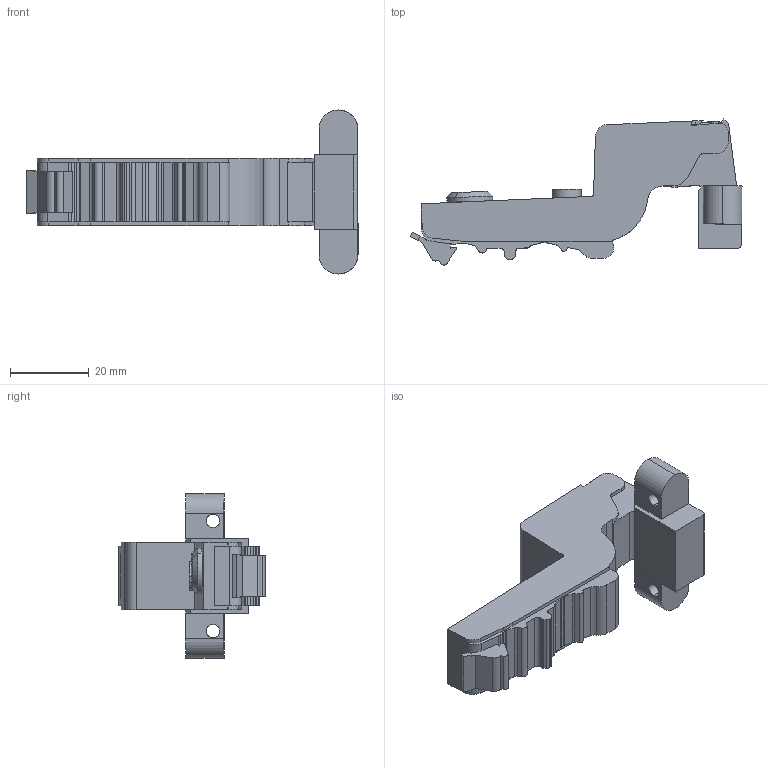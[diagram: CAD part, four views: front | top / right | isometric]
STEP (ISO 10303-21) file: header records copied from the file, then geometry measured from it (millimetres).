
FILE_DESCRIPTION (( 'STEP AP203' ), '1' );
FILE_NAME ('C82C678FA-DTC 3D close.STEP', '2025-07-21T05:13:24', ( '微软用户' ), ( '微软中国' ), 'SwSTEP 2.0', 'SolidWorks 2021', '' );
FILE_SCHEMA (( 'CONFIG_CONTROL_DESIGN' ));
Length unit declared in the file: millimetre
Products named in the file (1): C82C678FA-DTC 3D close
Bounding box: 84.21 x 37.05 x 41.6 mm (x, y, z)
Volume: 26965.9 mm3; surface area: 8696.8 mm2
Topology: 1 solids, 1 shells, 203 faces, 597 edges, 398 vertices
Faces by surface type: plane 105, cylinder 85, torus 8, cone 5
Entity records: 7018 total; most frequent: CARTESIAN_POINT 1445, ORIENTED_EDGE 1194, DIRECTION 1134, EDGE_CURVE 597, VERTEX_POINT 398, LINE 386, VECTOR 386, AXIS2_PLACEMENT_3D 374
